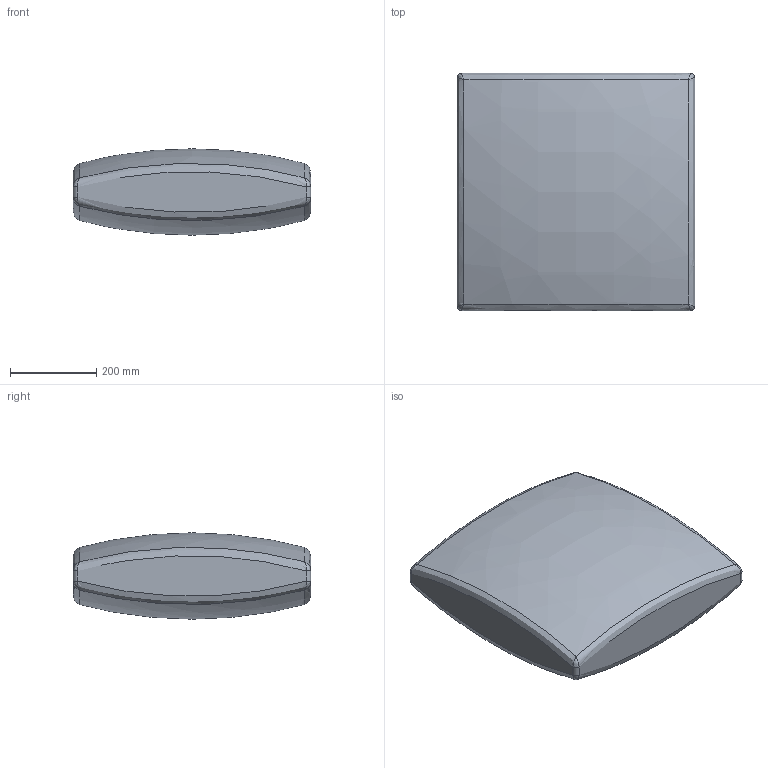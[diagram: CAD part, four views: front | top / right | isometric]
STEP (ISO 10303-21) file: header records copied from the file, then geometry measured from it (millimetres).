
FILE_DESCRIPTION (( 'STEP AP214' ), '1' );
FILE_NAME ('ACC99002-00-00.STEP', '2024-09-16T07:38:23', ( '' ), ( '' ), 'SwSTEP 2.0', 'SolidWorks 2020', '' );
FILE_SCHEMA (( 'AUTOMOTIVE_DESIGN' ));
Length unit declared in the file: millimetre
Products named in the file (1): ACC99002-00-00
Bounding box: 550 x 550 x 200 mm (x, y, z)
Volume: 45282937.5 mm3; surface area: 818966.5 mm2
Topology: 1 solids, 1 shells, 34 faces, 80 edges, 40 vertices
Faces by surface type: bspline 26, plane 4, cylinder 4
Entity records: 3263 total; most frequent: CARTESIAN_POINT 2678, ORIENTED_EDGE 144, EDGE_CURVE 72, DIRECTION 66, B_SPLINE_CURVE_WITH_KNOTS 40, VERTEX_POINT 40, EDGE_LOOP 34, FACE_OUTER_BOUND 34
